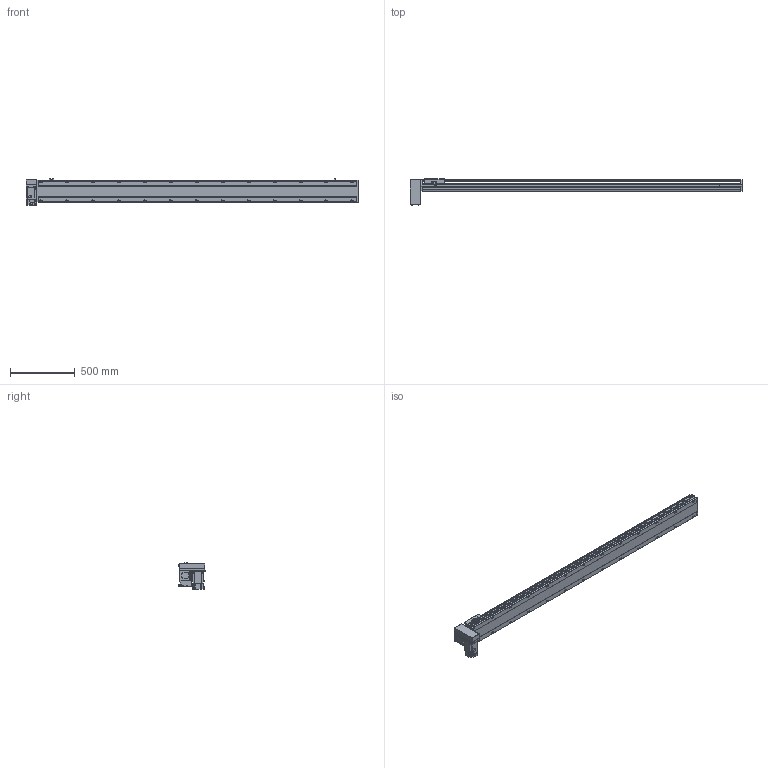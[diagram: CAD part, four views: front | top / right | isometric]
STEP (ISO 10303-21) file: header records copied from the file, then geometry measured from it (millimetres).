
FILE_DESCRIPTION( ( 'STEP AP214' ), '1' );
FILE_NAME( 'x:/temp/worker_5/temp/exporttempdir_3988_43_U1rQz/format_0/PBS170-P40-S2200-RD-T75-C1-N(0).stp', '2022-06-08T05:37:19', ( 'License CC BY-ND 4.0' ), ( 'CADENAS' ), ' ', 'PARTsolutions', ' ' );
FILE_SCHEMA( ( 'AUTOMOTIVE_DESIGN { 1 0 10303 214 1 1 1 1 }' ) );
Length unit declared in the file: millimetre
Products named in the file (7): PBS170-P40-S2200-RD-T75-C1-N(0); _PBS170-S2200()_body; _PBS170T-RD_motors; _T75-p1; _PBS170_sliser; _PBS170_plant; _PBS170_sensor
Assembly tree (8 placements, depth 2):
  PBS170-P40-S2200-RD-T75-C1-N(0)
    _PBS170-S2200()_body
    _PBS170T-RD_motors
    _T75-p1
    _PBS170_sliser
    _PBS170_plant
    _PBS170_sensor  x3
Bounding box: 2563 x 201 x 205.3 mm (x, y, z)
Volume: 19543025.4 mm3; surface area: 2470893.9 mm2
Topology: 8 solids, 8 shells, 1162 faces, 3075 edges, 2004 vertices
Faces by surface type: plane 717, cylinder 379, cone 56, sphere 8, torus 2
Full cylindrical faces by diameter (mm): 3.242 x4, 4 x2, 4.4 x4, 4.5 x6, 4.917 x4, 6 x9, 6.647 x34, 7 x2, 7.5 x4, 8 x8, 8.5 x26, 10 x4, 10.5 x26, 11 x2, 30 x2, 40 x1, 70 x1
Entity records: 42950 total; most frequent: CARTESIAN_POINT 7061, DIRECTION 5650, ORIENTED_EDGE 5328, EDGE_CURVE 2664, AXIS2_PLACEMENT_3D 1987, VERTEX_POINT 1850, LINE 1676, VECTOR 1676
